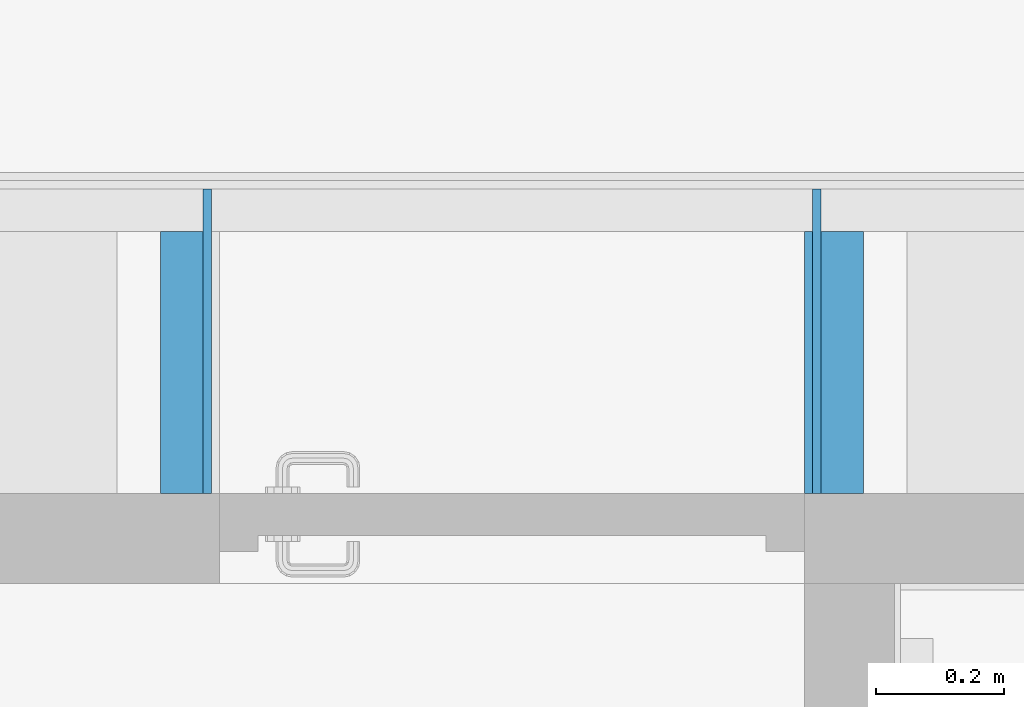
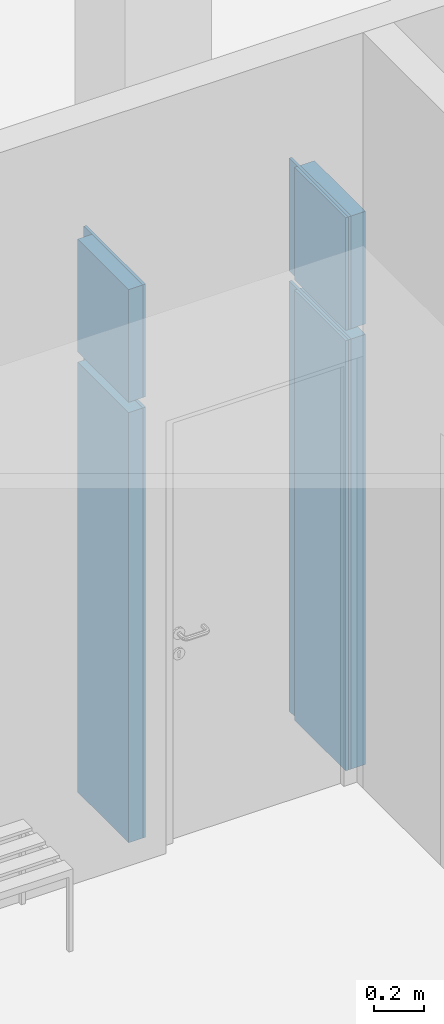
# One storey, part 186 of 301: 5 building element parts, 2 elements without a shape of their own.
"""IFC2X3 building model written with IfcOpenShell, lengths in millimetres."""

import ifcopenshell
import ifcopenshell.guid

model = None  # the IFC model being written
_history = None  # IfcOwnerHistory: only IFC2X3 demands one
_inside = {}  # id of a spatial element -> (the spatial element, [elements in it])
_under = {}  # id of a project, library or spatial element -> (it, [spatial elements below it])
_declared = {}  # id of a project -> (the project, [libraries it declares])
_typed = {}  # id of a type object -> (the type object, [elements of that type])
_made_of = {}  # id of a material, layer set ... -> (it, [elements and type objects made of it])


def new_model(schema):
    """Start an empty IFC model of exactly this schema.

    Asked for "IFC4X3", IfcOpenShell would pick the latest addendum, in which some entities
    have other attributes; the version numbers below select the first issue.
    IFC2X3 requires an IfcOwnerHistory on every rooted entity: one is made here for all.
    """
    global model, _history
    if schema == "IFC4X3":
        model = ifcopenshell.file(schema_version=(4, 3, 0, 0))
    else:
        model = ifcopenshell.file(schema=schema)
    _inside.clear()
    _under.clear()
    _declared.clear()
    _typed.clear()
    _made_of.clear()
    _history = None
    if model.schema == "IFC2X3":
        org = make("IfcOrganization", Name="unknown")
        user = make(
            "IfcPersonAndOrganization",
            ThePerson=make("IfcPerson", FamilyName="unknown"),
            TheOrganization=org,
        )
        app = make(
            "IfcApplication",
            ApplicationDeveloper=org,
            Version="unknown",
            ApplicationFullName="unknown",
            ApplicationIdentifier="unknown",
        )
        _history = make(
            "IfcOwnerHistory",
            OwningUser=user,
            OwningApplication=app,
            ChangeAction="ADDED",
            CreationDate=0,
        )
    return model


def make(cls, **values):
    """One entity of the class cls with the attributes given. An attribute that is None is left unset."""
    return model.create_entity(
        cls, **{name: value for name, value in values.items() if value is not None}
    )


def entity(cls, *values):
    """Any entity or typed value of the class cls, its attributes in the order of the schema. None: left unset."""
    e = model.create_entity(cls)
    for i, value in enumerate(values):
        if value is not None:
            e[i] = value
    return e


def rooted(cls, **values):
    """An entity with a GlobalId (a new one), such as an element, a storey or a relation."""
    return make(cls, GlobalId=ifcopenshell.guid.new(), OwnerHistory=_history, **values)


def si_unit(unit_type, name, prefix=None):
    """IfcSIUnit, for example si_unit("LENGTHUNIT", "METRE", prefix="MILLI")."""
    return make("IfcSIUnit", UnitType=unit_type, Prefix=prefix, Name=name)


def converted_unit(unit_type, name, factor, base, dimensions=None, offset=None):
    """IfcConversionBasedUnit, such as the inch: factor (a typed value) times the base unit."""
    return make(
        "IfcConversionBasedUnit"
        if offset is None
        else "IfcConversionBasedUnitWithOffset",
        ConversionOffset=offset,
        Dimensions=None
        if dimensions is None
        else entity("IfcDimensionalExponents", *dimensions),
        UnitType=unit_type,
        Name=name,
        ConversionFactor=make(
            "IfcMeasureWithUnit", ValueComponent=factor, UnitComponent=base
        ),
    )


def derived_unit(unit_type, elements):
    """IfcDerivedUnit: a product of units, each with its exponent."""
    return make(
        "IfcDerivedUnit",
        Elements=[
            make("IfcDerivedUnitElement", Unit=unit, Exponent=power)
            for unit, power in elements
        ],
        UnitType=unit_type,
    )


def money_unit(currency):
    """IfcMonetaryUnit."""
    return make("IfcMonetaryUnit", Currency=currency)


def assignment(units):
    """IfcUnitAssignment: the units of a project."""
    return None if units is None else make("IfcUnitAssignment", Units=units)


def point(xyz):
    """IfcCartesianPoint."""
    return None if xyz is None else make("IfcCartesianPoint", Coordinates=xyz)


def direction(xyz):
    """IfcDirection."""
    return None if xyz is None else make("IfcDirection", DirectionRatios=xyz)


def frame(location, z_axis=None, x_axis=None):
    """IfcAxis2Placement3D, a coordinate frame: its origin and axes. An axis left out is left unset."""
    return make(
        "IfcAxis2Placement3D",
        Location=point(location),
        Axis=direction(z_axis),
        RefDirection=direction(x_axis),
    )


def origin_with_axes():
    """The frame at (0, 0, 0) with the z axis (0, 0, 1) and the x axis (1, 0, 0) written out."""
    return frame((0.0, 0.0, 0.0), z_axis=(0.0, 0.0, 1.0), x_axis=(1.0, 0.0, 0.0))


def place(relative_to, where):
    """IfcLocalPlacement: puts the frame where relative to a parent placement (None: the world)."""
    return make(
        "IfcLocalPlacement", PlacementRelTo=relative_to, RelativePlacement=where
    )


def context(
    kind, dimensions, precision=None, world=None, true_north=None, identifier=None
):
    """IfcGeometricRepresentationContext, for example the 3D "Model" context."""
    return make(
        "IfcGeometricRepresentationContext",
        ContextIdentifier=identifier,
        ContextType=kind,
        CoordinateSpaceDimension=dimensions,
        Precision=precision,
        WorldCoordinateSystem=world,
        TrueNorth=true_north,
    )


def subcontext(parent, identifier, kind, view, scale=None):
    """IfcGeometricRepresentationSubContext, for example "Body" below "Model"."""
    return make(
        "IfcGeometricRepresentationSubContext",
        ContextIdentifier=identifier,
        ContextType=kind,
        ParentContext=parent,
        TargetScale=scale,
        TargetView=view,
    )


def project(units=None, contexts=None):
    """IfcProject with its units and contexts."""
    return rooted(
        "IfcProject",
        Name="project",
        RepresentationContexts=contexts,
        UnitsInContext=assignment(units),
    )


def spatial(cls, under=None, at=None, **own):
    """A site, building, storey or space (cls), placed at a placement, below another one or the project."""
    s = rooted(cls, ObjectPlacement=at, **own)
    if under is not None:
        _under.setdefault(under.id(), (under, []))[1].append(s)
    return s


def faces_of(points, faces, orient=None, outer=None):
    """IfcFace entities. A face is a list of loops; a loop is a list of indices into points, from 0.

    orient and outer hold one flag for each loop. By default every Orientation is true, the
    first loop of a face is its IfcFaceOuterBound and the others are IfcFaceBound.
    """
    made = []
    for i, loops in enumerate(faces):
        bounds = []
        for j, loop in enumerate(loops):
            is_outer = j == 0 if outer is None else outer[i][j]
            bounds.append(
                make(
                    "IfcFaceOuterBound" if is_outer else "IfcFaceBound",
                    Bound=make("IfcPolyLoop", Polygon=[points[k] for k in loop]),
                    Orientation=True if orient is None else orient[i][j],
                )
            )
        made.append(make("IfcFace", Bounds=bounds))
    return made


def faceted_brep(points, faces, orient=None, outer=None, voids=None):
    """IfcFacetedBrep: a solid bounded by flat faces; with voids (closed shells), ...WithVoids."""
    shared = [point(p) for p in points]
    hull = make("IfcClosedShell", CfsFaces=faces_of(shared, faces, orient, outer))
    if voids is None:
        return make("IfcFacetedBrep", Outer=hull)
    return make(
        "IfcFacetedBrepWithVoids",
        Outer=hull,
        Voids=[
            make(cls, CfsFaces=faces_of(shared, fs, o, b)) for cls, fs, o, b in voids
        ],
    )


def shape(context_of_items, identifier, shape_type, items):
    """IfcShapeRepresentation: the items that make up one representation, for example the "Body"."""
    return make(
        "IfcShapeRepresentation",
        ContextOfItems=context_of_items,
        RepresentationIdentifier=identifier,
        RepresentationType=shape_type,
        Items=items,
    )


def material(Name=None, Category=None):
    """IfcMaterial."""
    return make("IfcMaterial", Name=Name, Category=Category)


def made_of(thing, what):
    """Note that an element or type object is made of a material, layer set ...; save() writes the relation."""
    if what is not None:
        _made_of.setdefault(what.id(), (what, []))[1].append(thing)
    return thing


def type_object(cls, material=None, **own):
    """A type object (cls), such as IfcWallType, which elements share."""
    return made_of(rooted(cls, **own), material)


def element(
    cls,
    number,
    at=None,
    inside=None,
    cuts=None,
    type_object=None,
    material=None,
    context=None,
    identifier="Body",
    shape_type=None,
    held_by="IfcProductDefinitionShape",
    body=None,
    shapes=None,
    **own,
):
    """One element of the class cls, such as IfcWall. Its Tag is "e" and its number.

    at: its placement. inside: the storey or other place that contains it. cuts: it is an
    opening in that element (IfcRelVoidsElement). A single representation is given by context,
    identifier, shape_type and body (its items); several are given by shapes. held_by: the class
    of the entity that holds the representations. save() writes the other relations.
    """
    e = rooted(cls, Tag="e%d" % number, ObjectPlacement=at, **own)
    if body is not None:
        shapes = [shape(context, identifier, shape_type, body)]
    if shapes is not None:
        e.Representation = make(held_by, Representations=shapes)
    if inside is not None:
        _inside.setdefault(inside.id(), (inside, []))[1].append(e)
    if cuts is not None:
        rooted(
            "IfcRelVoidsElement", RelatingBuildingElement=cuts, RelatedOpeningElement=e
        )
    if type_object is not None:
        _typed.setdefault(type_object.id(), (type_object, []))[1].append(e)
    return made_of(e, material)


def aggregate(whole, parts):
    """IfcRelAggregates: a whole, such as a stair, and the parts it consists of."""
    return rooted("IfcRelAggregates", RelatingObject=whole, RelatedObjects=parts)


def save(model, path):
    """Write the relations noted so far, then the file.

    IfcRelAggregates (storeys below a building ...), IfcRelContainedInSpatialStructure (elements
    in a storey), IfcRelDefinesByType, IfcRelAssociatesMaterial and IfcRelDeclares: one each for
    every whole, place, type object, material and project.
    """
    for whole, parts in _under.values():
        aggregate(whole, parts)
    for where, things in _inside.values():
        rooted(
            "IfcRelContainedInSpatialStructure",
            RelatedElements=things,
            RelatingStructure=where,
        )
    for kind, things in _typed.values():
        rooted("IfcRelDefinesByType", RelatedObjects=things, RelatingType=kind)
    for what, things in _made_of.values():
        rooted("IfcRelAssociatesMaterial", RelatedObjects=things, RelatingMaterial=what)
    for by, libraries in _declared.values():
        rooted("IfcRelDeclares", RelatingContext=by, RelatedDefinitions=libraries)
    model.write(path)


model = new_model("IFC2X3")

# Units and contexts
model_context = context("Model", 3, precision=0.01, world=origin_with_axes(), true_north=direction((0.0, 1.0)))
body_context = subcontext(model_context, "Body", "Model", "MODEL_VIEW")
ifc_project = project(units=[si_unit("LENGTHUNIT", "METRE", prefix="MILLI"), si_unit("AREAUNIT", "SQUARE_METRE"), si_unit("VOLUMEUNIT", "CUBIC_METRE"), converted_unit("PLANEANGLEUNIT", "DEGREE", entity("IfcPlaneAngleMeasure", 0.0174532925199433), si_unit("PLANEANGLEUNIT", "RADIAN"), dimensions=[0, 0, 0, 0, 0, 0, 0]), money_unit("EUR"), converted_unit("TIMEUNIT", "Year", entity("IfcTimeMeasure", 31557600.0), si_unit("TIMEUNIT", "SECOND"), dimensions=[0, 0, 1, 0, 0, 0, 0]), si_unit("MASSUNIT", "GRAM", prefix="KILO"), si_unit("THERMODYNAMICTEMPERATUREUNIT", "DEGREE_CELSIUS"), si_unit("LUMINOUSINTENSITYUNIT", "LUMEN"), si_unit("ENERGYUNIT", "JOULE", prefix="MEGA"), derived_unit("THERMALCONDUCTANCEUNIT", [(si_unit("POWERUNIT", "WATT"), 1), (si_unit("LENGTHUNIT", "METRE"), -1), (si_unit("THERMODYNAMICTEMPERATUREUNIT", "KELVIN"), -1)]), derived_unit("SPECIFICHEATCAPACITYUNIT", [(si_unit("ENERGYUNIT", "JOULE"), 1), (si_unit("MASSUNIT", "GRAM", prefix="KILO"), -1), (si_unit("THERMODYNAMICTEMPERATUREUNIT", "KELVIN"), -1)]), derived_unit("MASSDENSITYUNIT", [(si_unit("MASSUNIT", "GRAM", prefix="KILO"), 1), (si_unit("VOLUMEUNIT", "CUBIC_METRE"), -1)])], contexts=[model_context])

# Site, building, storey
site_placement = place(None, frame((0.0, 0.0, 8650.0), z_axis=(0.0, 0.0, 1.0), x_axis=(1.0, 0.0, 0.0)))
site = spatial("IfcSite", under=ifc_project, at=site_placement, Name="43301:001:0844", CompositionType="ELEMENT")
building_placement = place(site_placement, origin_with_axes())
building = spatial("IfcBuilding", under=site, at=building_placement, Name="Kuressaare Ametikooli tuulikute mehaanikute õppekorpus", CompositionType="ELEMENT")
storey_placement = place(building_placement, origin_with_axes())
storey = spatial("IfcBuildingStorey", under=building, at=storey_placement, Name="1.korrus", CompositionType="ELEMENT", Elevation=0.0)

# Wall, building element parts
wall_type = type_object("IfcWallType", Name="SS-2.4 92", PredefinedType="NOTDEFINED")
wall_1_placement = place(storey_placement, frame((109505.5120074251, 21264.83624818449, 0.0), z_axis=(0.0, 0.0, 1.0), x_axis=(-1.369512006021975e-07, -0.9999999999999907, 0.0)))
wall_1 = element("IfcWall", 1, at=wall_1_placement, inside=storey, type_object=wall_type, Name="Sisesein")
ifc_material_1 = material(Name="Plywood")
building_element_part_1_placement = place(wall_1_placement, origin_with_axes())
building_element_part_1 = element("IfcBuildingElementPart", 2, at=building_element_part_1_placement, material=ifc_material_1, Name="Plywood", context=body_context, shape_type="Brep", body=[
    faceted_brep([(26.00000712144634, -26.00000000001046, 2100.0), (26.00000356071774, -13.00000000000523, 2100.0), (26.00000356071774, -13.00000000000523, 0.0), (26.00000712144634, -26.00000000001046, 0.0), (500.0005564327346, -12.99999999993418, 2100.0), (500.0005582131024, -25.9999999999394, 2100.0), (500.0000000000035, -13.00000000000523, 0.0), (500.0000000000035, -26.00000000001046, 0.0)], [[[0, 1, 2, 3]], [[4, 1, 0, 5]], [[1, 4, 6, 2]], [[2, 6, 7, 3]], [[5, 0, 3, 7]], [[4, 5, 7, 6]]]),
    faceted_brep([(500.0005564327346, -12.99999999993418, 2150.0), (26.00000356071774, -13.00000000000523, 2150.0), (26.00000356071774, -13.00000000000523, 2700.0), (500.0000000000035, -13.00000000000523, 2700.0), (26.00000712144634, -26.00000000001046, 2150.0), (500.0005582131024, -25.9999999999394, 2150.0), (26.00000712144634, -26.00000000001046, 2700.0), (500.0000000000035, -26.00000000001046, 2700.0)], [[[0, 1, 2, 3]], [[4, 1, 0, 5]], [[1, 4, 6, 2]], [[6, 7, 3, 2]], [[5, 0, 3, 7]], [[4, 5, 7, 6]]]),
])
ifc_material_2 = material(Name="Air Space - Frame")
building_element_part_2_placement = place(wall_1_placement, origin_with_axes())
building_element_part_2 = element("IfcBuildingElementPart", 3, at=building_element_part_2_placement, material=ifc_material_2, Name="Air Space - Frame", context=body_context, shape_type="Brep", body=[
    faceted_brep([(92.00002519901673, -92.00000000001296, 2100.0), (92.00000712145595, -26.00000000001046, 2100.0), (92.00000712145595, -26.00000000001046, 0.0), (92.00002519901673, -92.00000000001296, 0.0), (500.0005582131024, -25.9999999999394, 2100.0), (500.000567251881, -91.9999999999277, 2100.0), (500.0000000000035, -26.00000000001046, 0.0), (500.0000000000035, -91.99999999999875, 0.0)], [[[0, 1, 2, 3]], [[4, 1, 0, 5]], [[1, 4, 6, 2]], [[2, 6, 7, 3]], [[5, 0, 3, 7]], [[4, 5, 7, 6]]]),
    faceted_brep([(500.0005582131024, -25.9999999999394, 2150.0), (92.00000712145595, -26.00000000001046, 2150.0), (92.00000712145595, -26.00000000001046, 2700.0), (500.0000000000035, -26.00000000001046, 2700.0), (92.00002519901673, -92.00000000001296, 2150.0), (500.000567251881, -91.9999999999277, 2150.0), (92.00002519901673, -92.00000000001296, 2700.0), (500.0000000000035, -91.99999999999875, 2700.0)], [[[0, 1, 2, 3]], [[4, 1, 0, 5]], [[1, 4, 6, 2]], [[6, 7, 3, 2]], [[5, 0, 3, 7]], [[4, 5, 7, 6]]]),
])
aggregate(wall_1, [building_element_part_1, building_element_part_2])

wall_2_placement = place(storey_placement, frame((110415.5120074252, 21264.83637281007, 0.0), z_axis=(0.0, 0.0, 1.0), x_axis=(-1.369512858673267e-07, -0.9999999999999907, 0.0)))
wall_2 = element("IfcWall", 4, at=wall_2_placement, inside=storey, type_object=wall_type, Name="Sisesein")
building_element_part_3_placement = place(wall_2_placement, origin_with_axes())
building_element_part_3 = element("IfcBuildingElementPart", 5, at=building_element_part_3_placement, material=ifc_material_2, Name="Air Space - Frame", context=body_context, shape_type="Brep", body=[
    faceted_brep([(91.99999287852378, 25.99999999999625, 2100.0), (91.99997480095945, 91.99999999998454, 2100.0), (91.99997480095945, 91.99999999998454, 0.0), (91.99999287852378, 25.99999999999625, 0.0), (500.0006666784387, 92.00000000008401, 2100.0), (500.0006757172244, 26.00000000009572, 2100.0), (499.9999999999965, 91.99999999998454, 0.0), (499.9999999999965, 25.99999999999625, 0.0)], [[[0, 1, 2, 3]], [[4, 1, 0, 5]], [[1, 4, 6, 2]], [[2, 6, 7, 3]], [[5, 0, 3, 7]], [[4, 5, 7, 6]]]),
    faceted_brep([(500.0006666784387, 92.00000000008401, 2150.0), (91.99997480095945, 91.99999999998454, 2150.0), (91.99997480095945, 91.99999999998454, 2700.0), (499.9999999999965, 91.99999999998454, 2700.0), (91.99999287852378, 25.99999999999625, 2150.0), (500.0006757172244, 26.00000000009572, 2150.0), (91.99999287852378, 25.99999999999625, 2700.0), (499.9999999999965, 25.99999999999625, 2700.0)], [[[0, 1, 2, 3]], [[4, 1, 0, 5]], [[1, 4, 6, 2]], [[6, 7, 3, 2]], [[5, 0, 3, 7]], [[4, 5, 7, 6]]]),
])
ifc_material_3 = material(Name="Plaster - Gypsum")
building_element_part_4_placement = place(wall_2_placement, origin_with_axes())
building_element_part_4 = element("IfcBuildingElementPart", 6, at=building_element_part_4_placement, material=ifc_material_3, Name="Plaster - Gypsum", context=body_context, shape_type="Brep", body=[
    faceted_brep([(91.99999999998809, 0.0, 2100.0), (91.99999643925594, 13.00000000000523, 2100.0), (91.99999643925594, 13.00000000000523, 0.0), (91.99999999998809, 0.0, 0.0), (500.0006774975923, 13.00000000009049, 2100.0), (500.0006792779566, 0.0, 2100.0), (500.0, 12.99999999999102, 0.0), (499.9999999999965, 0.0, 0.0)], [[[0, 1, 2, 3]], [[4, 1, 0, 5]], [[1, 4, 6, 2]], [[2, 6, 7, 3]], [[5, 0, 3, 7]], [[4, 5, 7, 6]]]),
    faceted_brep([(500.0006774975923, 13.00000000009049, 2150.0), (91.99999643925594, 13.00000000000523, 2150.0), (91.99999643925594, 13.00000000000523, 2700.0), (500.0, 12.99999999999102, 2700.0), (91.99999999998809, 0.0, 2150.0), (500.0006792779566, 0.0, 2150.0), (91.99999999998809, 0.0, 2700.0), (499.9999999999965, 0.0, 2700.0)], [[[0, 1, 2, 3]], [[4, 1, 0, 5]], [[1, 4, 6, 2]], [[6, 7, 3, 2]], [[5, 0, 3, 7]], [[4, 5, 7, 6]]]),
])
building_element_part_5_placement = place(wall_2_placement, origin_with_axes())
building_element_part_5 = element("IfcBuildingElementPart", 7, at=building_element_part_5_placement, material=ifc_material_1, Name="Plywood", context=body_context, shape_type="Brep", body=[
    faceted_brep([(25.99999643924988, 13.00000000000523, 2100.0), (25.99999287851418, 25.99999999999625, 2100.0), (25.99999287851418, 25.99999999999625, 0.0), (25.99999643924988, 13.00000000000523, 0.0), (500.0006757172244, 26.00000000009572, 2100.0), (500.0006774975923, 13.00000000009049, 2100.0), (499.9999999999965, 25.99999999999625, 0.0), (500.0, 12.99999999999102, 0.0)], [[[0, 1, 2, 3]], [[4, 1, 0, 5]], [[1, 4, 6, 2]], [[2, 6, 7, 3]], [[5, 0, 3, 7]], [[4, 5, 7, 6]]]),
    faceted_brep([(500.0006757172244, 26.00000000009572, 2150.0), (25.99999287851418, 25.99999999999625, 2150.0), (25.99999287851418, 25.99999999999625, 2700.0), (499.9999999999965, 25.99999999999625, 2700.0), (25.99999643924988, 13.00000000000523, 2150.0), (500.0006774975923, 13.00000000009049, 2150.0), (25.99999643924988, 13.00000000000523, 2700.0), (500.0, 12.99999999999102, 2700.0)], [[[0, 1, 2, 3]], [[4, 1, 0, 5]], [[1, 4, 6, 2]], [[6, 7, 3, 2]], [[5, 0, 3, 7]], [[4, 5, 7, 6]]]),
])
aggregate(wall_2, [building_element_part_3, building_element_part_4, building_element_part_5])

save(model, "model.ifc")
